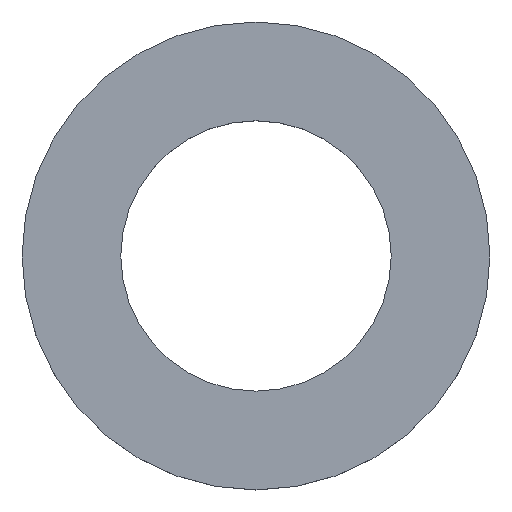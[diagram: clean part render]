
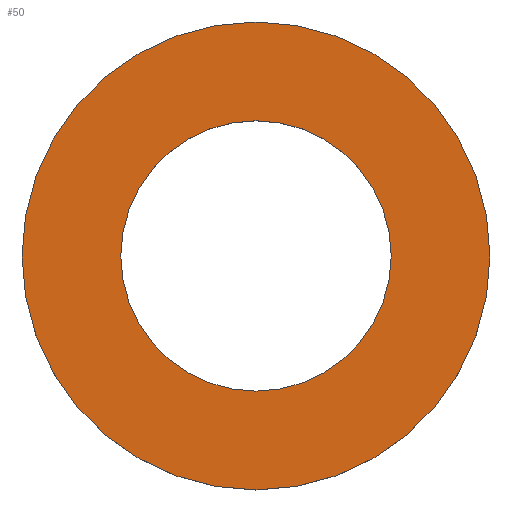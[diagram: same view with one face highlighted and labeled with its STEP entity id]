
A CAD part, top view. The second image highlights one B-rep face of the part: STEP entity #50.
In plain terms, the highlighted planar face has unit normal (0, 0, 1).
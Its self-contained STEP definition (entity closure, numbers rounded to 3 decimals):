
#21 = EDGE_CURVE('',#22,#22,#24,.T.);
#22 = VERTEX_POINT('',#23);
#23 = CARTESIAN_POINT('',(13.5,0.,127.775));
#24 = CIRCLE('',#25,13.5);
#25 = AXIS2_PLACEMENT_3D('',#26,#27,#28);
#26 = CARTESIAN_POINT('',(0.,0.,127.775));
#27 = DIRECTION('',(0.,0.,1.));
#28 = DIRECTION('',(1.,0.,0.));
#50 = ADVANCED_FACE('',(#51,#54),#65,.T.);
#51 = FACE_BOUND('',#52,.T.);
#52 = EDGE_LOOP('',(#53));
#53 = ORIENTED_EDGE('',*,*,#21,.T.);
#54 = FACE_BOUND('',#55,.T.);
#55 = EDGE_LOOP('',(#56));
#56 = ORIENTED_EDGE('',*,*,#57,.F.);
#57 = EDGE_CURVE('',#58,#58,#60,.T.);
#58 = VERTEX_POINT('',#59);
#59 = CARTESIAN_POINT('',(7.8,0.,127.775));
#60 = CIRCLE('',#61,7.8);
#61 = AXIS2_PLACEMENT_3D('',#62,#63,#64);
#62 = CARTESIAN_POINT('',(0.,0.,127.775));
#63 = DIRECTION('',(0.,0.,1.));
#64 = DIRECTION('',(1.,0.,0.));
#65 = PLANE('',#66);
#66 = AXIS2_PLACEMENT_3D('',#67,#68,#69);
#67 = CARTESIAN_POINT('',(0.,0.,127.775));
#68 = DIRECTION('',(0.,0.,1.));
#69 = DIRECTION('',(1.,0.,0.));
